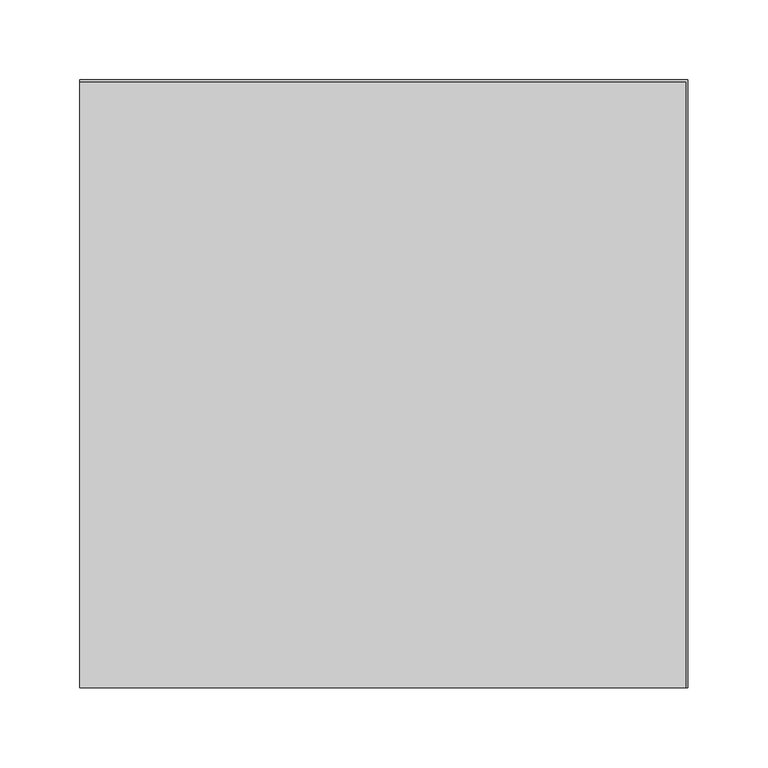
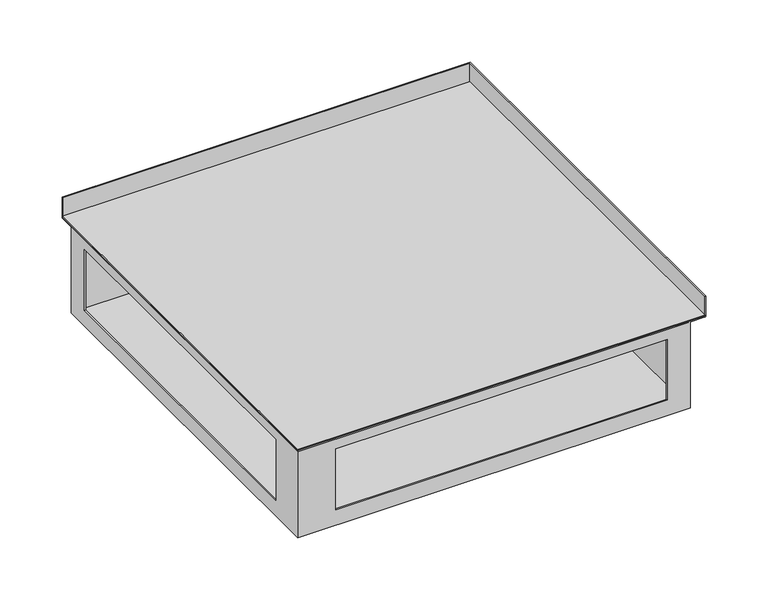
"""IFC4 building model written with IfcOpenShell, lengths in millimetres: proxy geometry, TECHNO_Угловой элемент_KVU : 380_105_90°."""

from ifc_helpers import new_model, si_unit, frame, origin, place, context, project, spatial, polyline, circle_curve, ellipse_curve, outline, extrude, source, transform, mapped, element, save
from ifc_brep_helpers import plane_surface, cylinder_surface, advanced_brep


def mechanical_equipment_d35ea5ac(model_context):
    return source(origin(), model_context, "Body", "SolidModel", [
        extrude(outline(polyline([(0.0, 188.8), (378.8, 188.8), (378.8, -190.0), (0.0, -190.0), (0.0, 188.8)])), frame((0.0, 0.0, -19.3), z_axis=(0.0, 0.0, 1.0), x_axis=(1.0, 0.0, 0.0)), (0.0, 0.0, 1.0), 1.2),
        advanced_brep(
        [(1.2, 174.0, -103.8), (1.2, -188.8, -103.8), (364.0, -188.8, -103.8), (364.0, 174.0, -103.8), (0.0, 175.2, -105.0), (365.2, 175.2, -105.0), (365.2, -190.0, -105.0), (0.0, -190.0, -105.0), (0.0, 175.2, -20.5), (0.0, -190.0, -20.5), (0.0, 174.0, -20.5), (0.0, 175.2, -19.3), (0.0, 188.8, -19.3), (0.0, 188.8, 0.0), (0.0, 190.0, 0.0), (0.0, 190.0, -19.3), (0.0, 188.8, -20.5), (0.0, -154.5, -30.0), (0.0, -154.5, -90.0), (0.0, 153.9, -90.0), (0.0, 153.9, -30.0), (365.2, -190.0, -20.5), (378.8, -190.0, -20.5), (380.0, -190.0, -19.3), (380.0, -190.0, 0.0), (378.8, -190.0, 0.0), (378.8, -190.0, -19.3), (365.2, -190.0, -19.3), (364.0, -190.0, -20.5), (35.5, -190.0, -90.0), (35.5, -190.0, -30.0), (343.9, -190.0, -30.0), (343.9, -190.0, -90.0), (365.2, 175.2, -20.5), (1.2, 175.2, -19.3), (1.2, -188.8, -19.3), (365.2, -188.8, -19.3), (378.8, 188.8, -19.3), (365.2, -174.0, -19.3), (16.0, -174.0, -19.3), (16.0, 175.2, -19.3), (365.2, 175.2, -19.3), (16.0, -174.0, -20.5), (16.0, 174.0, -20.5), (364.0, -174.0, -20.5), (364.0, -188.8, -20.5), (1.2, -188.8, -20.5), (1.2, 174.0, -20.5), (1.2, -154.5, -90.0), (1.2, -154.5, -30.0), (1.2, 153.9, -30.0), (1.2, 153.9, -90.0), (35.5, -188.8, -30.0), (35.5, -188.8, -90.0), (343.9, -188.8, -90.0), (343.9, -188.8, -30.0), (380.0, 190.0, -19.3), (380.0, 190.0, 0.0), (378.8, 188.8, 0.0), (378.8, 188.8, -20.5), (364.0, 174.0, -20.5)],
        [
            (0, 1),
            (1, 2),
            (2, 3),
            (3, 0),
            (4, 5),
            (5, 6),
            (6, 7),
            (7, 4),
            (8, 4),
            (7, 9),
            (9, 10),
            (10, 11, circle_curve(frame((0.0, 175.2, -20.5), z_axis=(-1.0, 0.0, 0.0), x_axis=(0.0, -1.0, 0.0)), 1.2)),
            (11, 12),
            (12, 13),
            (13, 14),
            (14, 15),
            (15, 16, circle_curve(frame((0.0, 188.8, -19.3), z_axis=(-1.0, 0.0, 0.0), x_axis=(0.0, -1.0, 0.0)), 1.2)),
            (16, 8),
            (17, 18),
            (18, 19),
            (19, 20),
            (20, 17),
            (6, 21),
            (21, 22),
            (22, 23, circle_curve(frame((378.8, -190.0, -19.3), z_axis=(0.0, -1.0, 0.0), x_axis=(-1.0, 0.0, 0.0)), 1.2)),
            (23, 24),
            (24, 25),
            (25, 26),
            (26, 27),
            (27, 28, circle_curve(frame((365.2, -190.0, -20.5), z_axis=(0.0, -1.0, 0.0), x_axis=(-1.0, 0.0, 0.0)), 1.2)),
            (28, 9),
            (29, 30),
            (30, 31),
            (31, 32),
            (32, 29),
            (8, 33),
            (33, 5),
            (33, 21),
            (34, 35),
            (35, 36),
            (36, 27),
            (26, 37),
            (37, 12),
            (11, 34),
            (38, 39),
            (39, 40),
            (40, 41),
            (41, 38),
            (39, 42),
            (42, 43),
            (43, 40, circle_curve(frame((16.0, 175.2, -20.5), z_axis=(-1.0, 0.0, 0.0), x_axis=(0.0, -1.0, 0.0)), 1.2)),
            (38, 44, circle_curve(frame((365.2, -174.0, -20.5), z_axis=(0.0, -1.0, 0.0), x_axis=(-1.0, 0.0, 0.0)), 1.2)),
            (44, 42),
            (44, 45),
            (45, 46),
            (46, 47),
            (47, 43),
            (46, 1),
            (0, 47),
            (48, 49),
            (49, 50),
            (50, 51),
            (51, 48),
            (45, 2),
            (52, 53),
            (53, 54),
            (54, 55),
            (55, 52),
            (34, 10, ellipse_curve(frame((1.2, 175.2, -20.5), z_axis=(0.7071067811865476, -0.7071067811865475, 0.0), x_axis=(0.7071067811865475, 0.7071067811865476, 0.0)), 1.6970563, 1.2)),
            (9, 35, ellipse_curve(frame((1.2, -188.8, -20.5), z_axis=(-0.7071067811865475, 0.7071067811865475, 0.0), x_axis=(0.7071067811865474, 0.7071067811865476, 0.0)), 1.6970563, 1.2)),
            (28, 36, ellipse_curve(frame((365.2, -188.8, -20.5), z_axis=(-0.7071067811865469, 0.707106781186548, 0.0), x_axis=(-0.7071067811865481, -0.7071067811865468, 0.0)), 1.6970563, 1.2)),
            (23, 56),
            (56, 57),
            (57, 24),
            (57, 14),
            (13, 58),
            (58, 25),
            (58, 37),
            (16, 59),
            (59, 22),
            (59, 56, ellipse_curve(frame((378.8, 188.8, -19.3), z_axis=(0.707106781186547, -0.707106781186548, 0.0), x_axis=(-0.707106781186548, -0.707106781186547, 0.0)), 1.6970563, 1.2)),
            (56, 15),
            (41, 60, ellipse_curve(frame((365.2, 175.2, -20.5), z_axis=(0.707106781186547, -0.707106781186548, 0.0), x_axis=(-0.707106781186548, -0.707106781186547, 0.0)), 1.6970563, 1.2)),
            (60, 44),
            (60, 3),
            (43, 60),
            (48, 18),
            (17, 49),
            (51, 19),
            (50, 20),
            (52, 30),
            (29, 53),
            (55, 31),
            (54, 32),
        ],
        [
            plane_surface(frame((0.0, 174.0, -103.8), z_axis=(0.0, 0.0, 1.0), x_axis=(0.0, -1.0, 0.0))),
            plane_surface(frame((0.0, 174.0, -105.0), z_axis=(0.0, 0.0, -1.0), x_axis=(0.0, 1.0, 0.0))),
            plane_surface(frame((0.0, 174.0, -103.8), z_axis=(-1.0, 0.0, 0.0), x_axis=(0.0, 0.0, -1.0))),
            plane_surface(frame((0.0, -190.0, -103.8), z_axis=(0.0, -1.0, 0.0), x_axis=(0.0, 0.0, -1.0))),
            plane_surface(frame((0.0, 175.2, -105.0), z_axis=(0.0, 1.0, 0.0), x_axis=(0.0, 0.0, -1.0))),
            plane_surface(frame((365.2, -190.0, -105.0), z_axis=(1.0, 0.0, 0.0), x_axis=(0.0, 0.0, -1.0))),
            plane_surface(frame((1.2, 175.2, -19.3), z_axis=(0.0, 0.0, 1.0), x_axis=(0.0, -1.0, 0.0))),
            plane_surface(frame((16.0, 175.2, -19.3), z_axis=(1.0, 0.0, 0.0), x_axis=(0.0, -1.0, 0.0))),
            plane_surface(frame((16.0, -174.0, -19.3), z_axis=(0.0, 1.0, 0.0), x_axis=(1.0, 0.0, 0.0))),
            plane_surface(frame((16.0, 175.2, -20.5), z_axis=(0.0, 0.0, -1.0), x_axis=(0.0, -1.0, 0.0))),
            plane_surface(frame((1.2, 175.2, -20.5), z_axis=(1.0, 0.0, 0.0), x_axis=(0.0, -1.0, 0.0))),
            plane_surface(frame((1.2, -188.8, -20.5), z_axis=(0.0, 1.0, 0.0), x_axis=(1.0, 0.0, 0.0))),
            cylinder_surface(frame((1.2, 175.2, -20.5), z_axis=(0.0, 1.0, 0.0), x_axis=(-1.0, 0.0, 0.0)), 1.2),
            cylinder_surface(frame((0.0, -188.8, -20.5), z_axis=(-1.0, 0.0, 0.0), x_axis=(0.0, -1.0, 0.0)), 1.2),
            plane_surface(frame((380.0, -190.0, -19.3), z_axis=(1.0, 0.0, 0.0), x_axis=(0.0, 1.0, 0.0))),
            plane_surface(frame((380.0, -190.0, 0.0), z_axis=(0.0, 0.0, 1.0), x_axis=(0.0, 1.0, 0.0))),
            plane_surface(frame((378.8, -190.0, 0.0), z_axis=(-1.0, 0.0, 0.0), x_axis=(0.0, 1.0, 0.0))),
            plane_surface(frame((365.2, -190.0, -20.5), z_axis=(0.0, 0.0, -1.0), x_axis=(0.0, 1.0, 0.0))),
            cylinder_surface(frame((378.8, -190.0, -19.3), z_axis=(0.0, -1.0, 0.0), x_axis=(-1.0, 0.0, 0.0)), 1.2),
            plane_surface(frame((380.0, 190.0, -19.3), z_axis=(0.0, 1.0, 0.0), x_axis=(-1.0, 0.0, 0.0))),
            plane_surface(frame((378.8, 188.8, 0.0), z_axis=(0.0, -1.0, 0.0), x_axis=(-1.0, 0.0, 0.0))),
            cylinder_surface(frame((190.0, 188.8, -19.3), z_axis=(1.0, 0.0, 0.0), x_axis=(0.0, -1.0, 0.0)), 1.2),
            cylinder_surface(frame((365.2, -190.0, -20.5), z_axis=(0.0, -1.0, 0.0), x_axis=(-1.0, 0.0, 0.0)), 1.2),
            plane_surface(frame((364.0, -190.0, -20.5), z_axis=(-1.0, 0.0, 0.0), x_axis=(0.0, 1.0, 0.0))),
            cylinder_surface(frame((190.0, 175.2, -20.5), z_axis=(1.0, 0.0, 0.0), x_axis=(0.0, -1.0, 0.0)), 1.2),
            plane_surface(frame((364.0, 174.0, -20.5), z_axis=(0.0, -1.0, 0.0), x_axis=(-1.0, 0.0, 0.0))),
            plane_surface(frame((1.2, -154.5, -30.0), z_axis=(0.0, 1.0, 0.0), x_axis=(-1.0, 0.0, 0.0))),
            plane_surface(frame((1.2, -154.5, -90.0), z_axis=(0.0, 0.0, 1.0), x_axis=(-1.0, 0.0, 0.0))),
            plane_surface(frame((1.2, 153.9, -90.0), z_axis=(0.0, -1.0, 0.0), x_axis=(-1.0, 0.0, 0.0))),
            plane_surface(frame((1.2, 153.9, -30.0), z_axis=(0.0, 0.0, -1.0), x_axis=(-1.0, 0.0, 0.0))),
            plane_surface(frame((35.5, -188.8, -90.0), z_axis=(1.0, 0.0, 0.0), x_axis=(0.0, -1.0, 0.0))),
            plane_surface(frame((35.5, -188.8, -30.0), z_axis=(0.0, 0.0, -1.0), x_axis=(0.0, -1.0, 0.0))),
            plane_surface(frame((343.9, -188.8, -30.0), z_axis=(-1.0, 0.0, 0.0), x_axis=(0.0, -1.0, 0.0))),
            plane_surface(frame((343.9, -188.8, -90.0), z_axis=(0.0, 0.0, 1.0), x_axis=(0.0, -1.0, 0.0))),
        ],
        [
            (0, [[1, 2, 3, 4]]),
            (1, [[5, 6, 7, 8]]),
            (2, [[9, -8, 10, 11, 12, 13, 14, 15, 16, 17, 18], [19, 20, 21, 22]]),
            (3, [[23, 24, 25, 26, 27, 28, 29, 30, 31, -10, -7], [32, 33, 34, 35]]),
            (4, [[-9, 36, 37, -5]]),
            (5, [[-23, -6, -37, 38]]),
            (6, [[39, 40, 41, -29, 42, 43, -13, 44], [45, 46, 47, 48]]),
            (7, [[-46, 49, 50, 51]]),
            (8, [[-45, 52, 53, -49]]),
            (9, [[-50, -53, 54, 55, 56, 57]]),
            (10, [[58, -1, 59, -56], [60, 61, 62, 63]]),
            (11, [[-58, -55, 64, -2], [65, 66, 67, 68]]),
            (12, [[-39, 69, -11, 70]]),
            (13, [[-40, -70, -31, 71]]),
            (14, [[-26, 72, 73, 74]]),
            (15, [[-27, -74, 75, -15, 76, 77]]),
            (16, [[-28, -77, 78, -42]]),
            (17, [[-24, -38, -36, -18, 79, 80]]),
            (18, [[-25, -80, 81, -72]]),
            (19, [[-73, 82, -16, -75]]),
            (20, [[-76, -14, -43, -78]]),
            (21, [[-79, -17, -82, -81]]),
            (22, [[-30, -41, -71]]),
            (22, [[83, 84, -52, -48]]),
            (23, [[85, -3, -64, -54, -84]]),
            (24, [[-12, -69, -44]]),
            (24, [[-83, -47, -51, 86]]),
            (25, [[-85, -86, -57, -59, -4]]),
            (26, [[87, -19, 88, -60]]),
            (27, [[-87, -63, 89, -20]]),
            (28, [[-89, -62, 90, -21]]),
            (29, [[-88, -22, -90, -61]]),
            (30, [[91, -32, 92, -65]]),
            (31, [[-91, -68, 93, -33]]),
            (32, [[-93, -67, 94, -34]]),
            (33, [[-92, -35, -94, -66]]),
        ],
    ),
    ])


if __name__ == "__main__":
    model = new_model("IFC4")
    model_context = context("Model", 3, world=origin())
    ifc_project = project(units=[si_unit("LENGTHUNIT", "METRE", prefix="MILLI")], contexts=[model_context])
    site = spatial("IfcSite", under=ifc_project)
    building = spatial("IfcBuilding", under=site)
    placement = place(None, origin())
    mechanical_equipment_shape = mechanical_equipment_d35ea5ac(model_context)
    element("IfcBuildingElementProxy", 1, Name="TECHNO_Угловой элемент_KVU : 380_105_90°", ObjectType="TECHNO_Угловой элемент_KVU : 380_105_90°", at=placement, inside=building, context=model_context, shape_type="MappedRepresentation", body=[
        mapped(mechanical_equipment_shape, transform((0.0, 0.0, 0.0), x_axis=(1.0, 0.0, 0.0), y_axis=(0.0, 1.0, 0.0), z_axis=(0.0, 0.0, 1.0))),
    ])
    save(model, "model.ifc")
